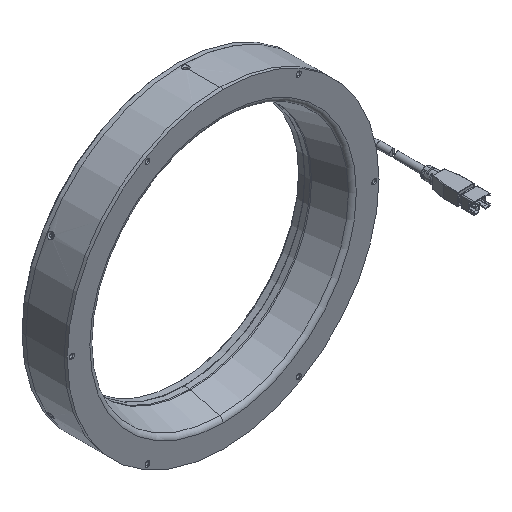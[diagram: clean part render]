
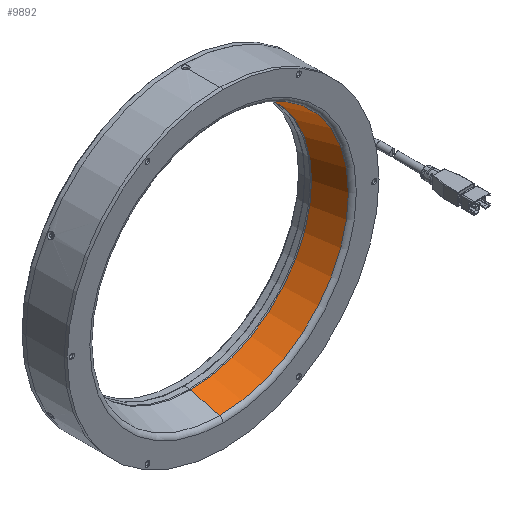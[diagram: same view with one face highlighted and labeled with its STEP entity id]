
A CAD part, isometric view. The second image highlights one B-rep face of the part: STEP entity #9892.
In plain terms, the highlighted conical face has half-angle 15 degrees and reference radius 77.602 mm.
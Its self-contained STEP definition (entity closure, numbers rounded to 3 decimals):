
#115 = DIRECTION ( 'NONE',  ( 0., 1., 0. ) ) ;
#525 = FACE_OUTER_BOUND ( 'NONE', #5235, .T. ) ;
#1347 = CARTESIAN_POINT ( 'NONE',  ( 0., -9.175, 77.602 ) ) ;
#1445 = DIRECTION ( 'NONE',  ( 0., -1., 0. ) ) ;
#1685 = ORIENTED_EDGE ( 'NONE', *, *, #9491, .T. ) ;
#1790 = CARTESIAN_POINT ( 'NONE',  ( 0., -27.776, 82.586 ) ) ;
#1994 = EDGE_CURVE ( 'NONE', #8241, #6128, #7823, .T. ) ;
#2128 = DIRECTION ( 'NONE',  ( 0., -0.966, 0.259 ) ) ;
#2155 = DIRECTION ( 'NONE',  ( 0., 0., -1. ) ) ;
#2471 = CARTESIAN_POINT ( 'NONE',  ( 0., -27.776, 0. ) ) ;
#2548 = CIRCLE ( 'NONE', #5832, 82.586 ) ;
#3280 = DIRECTION ( 'NONE',  ( 0., -0.966, -0.259 ) ) ;
#3292 = VERTEX_POINT ( 'NONE', #7154 ) ;
#3833 = VECTOR ( 'NONE', #3280, 1000. ) ;
#4290 = CARTESIAN_POINT ( 'NONE',  ( 0., -9.175, 77.602 ) ) ;
#5009 = DIRECTION ( 'NONE',  ( 0., 0., 1. ) ) ;
#5064 = EDGE_CURVE ( 'NONE', #10019, #3292, #2548, .T. ) ;
#5163 = CARTESIAN_POINT ( 'NONE',  ( 0., -9.175, -77.602 ) ) ;
#5235 = EDGE_LOOP ( 'NONE', ( #8472, #5608, #1685, #8365 ) ) ;
#5294 = AXIS2_PLACEMENT_3D ( 'NONE', #7912, #115, #5583 ) ;
#5538 = LINE ( 'NONE', #8654, #3833 ) ;
#5583 = DIRECTION ( 'NONE',  ( 0., 0., 1. ) ) ;
#5608 = ORIENTED_EDGE ( 'NONE', *, *, #1994, .T. ) ;
#5832 = AXIS2_PLACEMENT_3D ( 'NONE', #2471, #8125, #5009 ) ;
#6128 = VERTEX_POINT ( 'NONE', #5163 ) ;
#6213 = CARTESIAN_POINT ( 'NONE',  ( 0., -9.175, 0. ) ) ;
#6418 = CONICAL_SURFACE ( 'NONE', #8487, 77.602, 0.262 ) ;
#7025 = VECTOR ( 'NONE', #2128, 1000. ) ;
#7154 = CARTESIAN_POINT ( 'NONE',  ( 0., -27.776, -82.586 ) ) ;
#7274 = LINE ( 'NONE', #1347, #7025 ) ;
#7823 = CIRCLE ( 'NONE', #5294, 77.602 ) ;
#7912 = CARTESIAN_POINT ( 'NONE',  ( 0., -9.175, 0. ) ) ;
#8125 = DIRECTION ( 'NONE',  ( 0., 1., 0. ) ) ;
#8241 = VERTEX_POINT ( 'NONE', #4290 ) ;
#8365 = ORIENTED_EDGE ( 'NONE', *, *, #5064, .F. ) ;
#8472 = ORIENTED_EDGE ( 'NONE', *, *, #9734, .F. ) ;
#8487 = AXIS2_PLACEMENT_3D ( 'NONE', #6213, #1445, #2155 ) ;
#8654 = CARTESIAN_POINT ( 'NONE',  ( 0., -9.175, -77.602 ) ) ;
#9491 = EDGE_CURVE ( 'NONE', #6128, #3292, #5538, .T. ) ;
#9734 = EDGE_CURVE ( 'NONE', #8241, #10019, #7274, .T. ) ;
#9892 = ADVANCED_FACE ( 'NONE', ( #525 ), #6418, .F. ) ;
#10019 = VERTEX_POINT ( 'NONE', #1790 ) ;
